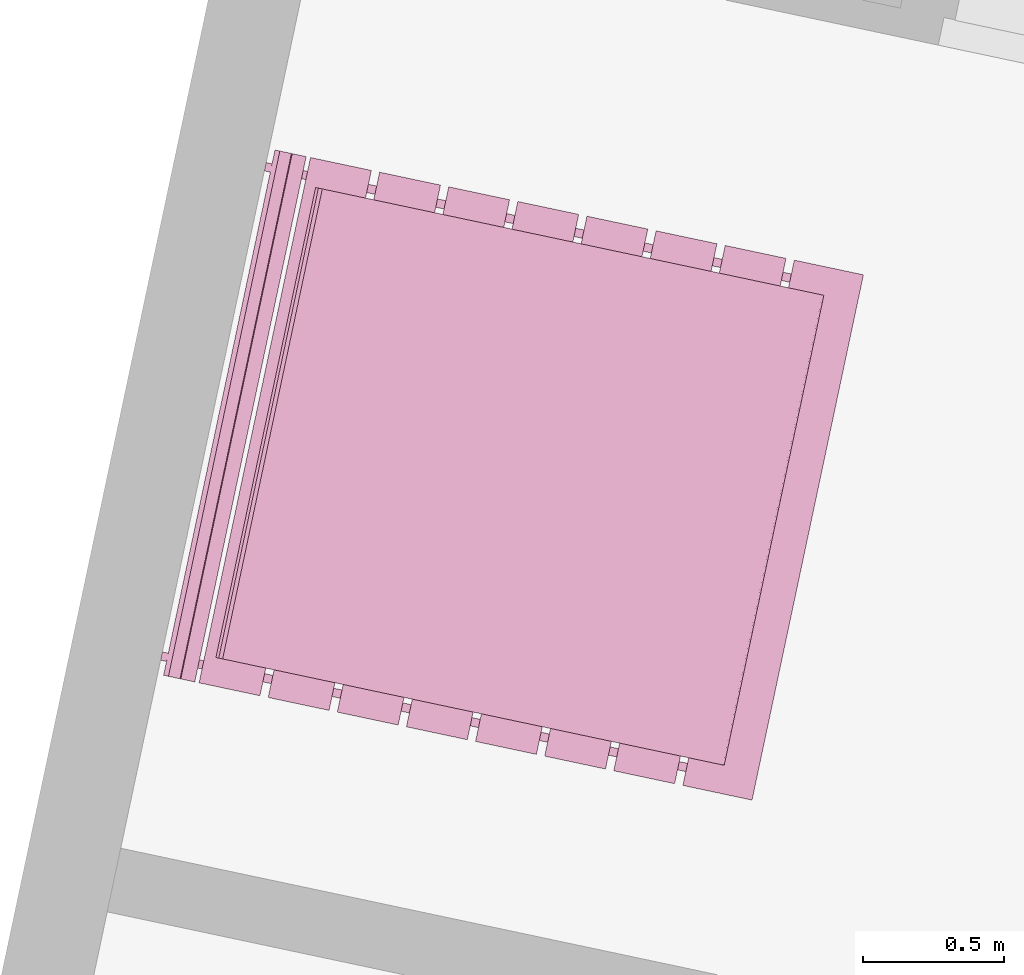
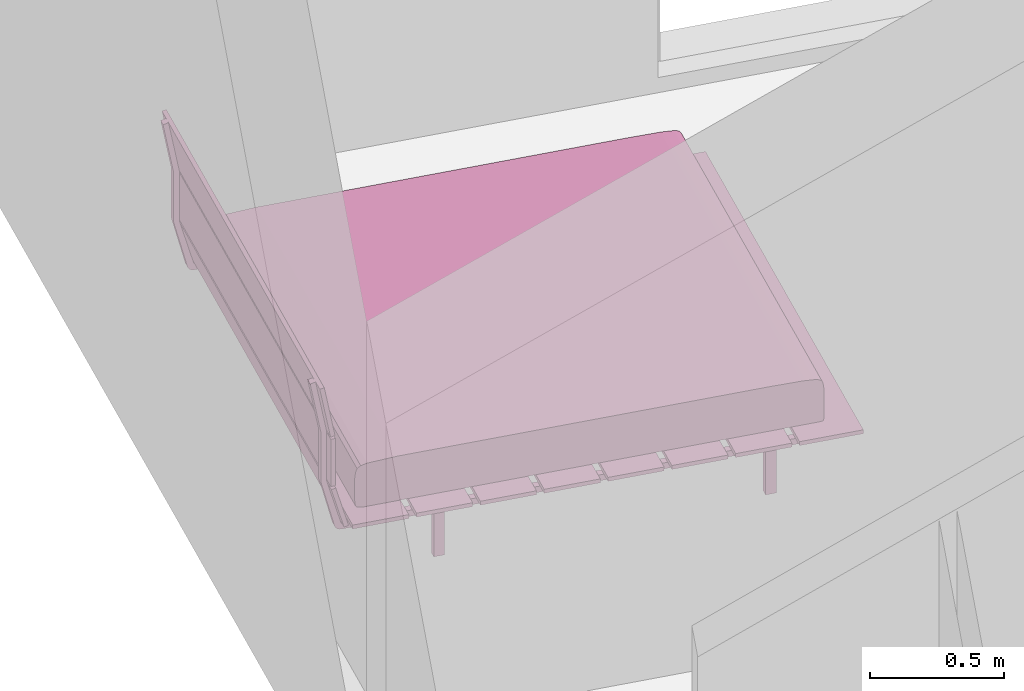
# One storey, part 19 of 20: 1 furnishing.
"""IFC2X3 building model written with IfcOpenShell, lengths in metres."""

from ifc_helpers import new_model, entity, si_unit, converted_unit, derived_unit, direction, frame, frame_2d, origin, origin_2d_with_axis, place, context, subcontext, project, spatial, polyline, circle_curve, parameter, trimmed, segment, composite_curve, rectangle, outline, extrude, source, transform, mapped, material, material_list, type_object, type_shapes, element, save


model = new_model("IFC2X3")

# Units and contexts
model_context = context("Model", 3, precision=1e-05, world=origin(), true_north=direction((6.12303176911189e-17, 1.0)))
body_context = subcontext(model_context, "Body", "Model", "MODEL_VIEW")
ifc_project = project(units=[si_unit("LENGTHUNIT", "METRE"), si_unit("AREAUNIT", "SQUARE_METRE"), si_unit("VOLUMEUNIT", "CUBIC_METRE"), converted_unit("PLANEANGLEUNIT", "DEGREE", entity("IfcRatioMeasure", 0.0174532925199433), si_unit("PLANEANGLEUNIT", "RADIAN"), dimensions=[0, 0, 0, 0, 0, 0, 0]), si_unit("MASSUNIT", "GRAM", prefix="KILO"), derived_unit("MASSDENSITYUNIT", [(si_unit("MASSUNIT", "GRAM", prefix="KILO"), 1), (si_unit("LENGTHUNIT", "METRE"), -3)]), si_unit("TIMEUNIT", "SECOND"), si_unit("FREQUENCYUNIT", "HERTZ"), si_unit("THERMODYNAMICTEMPERATUREUNIT", "DEGREE_CELSIUS"), derived_unit("THERMALTRANSMITTANCEUNIT", [(si_unit("MASSUNIT", "GRAM", prefix="KILO"), 1), (si_unit("THERMODYNAMICTEMPERATUREUNIT", "KELVIN"), -1), (si_unit("TIMEUNIT", "SECOND"), -3)]), derived_unit("VOLUMETRICFLOWRATEUNIT", [(si_unit("LENGTHUNIT", "METRE"), 3), (si_unit("TIMEUNIT", "SECOND"), -1)]), si_unit("ELECTRICCURRENTUNIT", "AMPERE"), si_unit("ELECTRICVOLTAGEUNIT", "VOLT"), si_unit("POWERUNIT", "WATT"), si_unit("FORCEUNIT", "NEWTON", prefix="KILO"), si_unit("ILLUMINANCEUNIT", "LUX"), si_unit("LUMINOUSFLUXUNIT", "LUMEN"), si_unit("LUMINOUSINTENSITYUNIT", "CANDELA"), derived_unit("USERDEFINED", [(si_unit("MASSUNIT", "GRAM", prefix="KILO"), -1), (si_unit("LENGTHUNIT", "METRE"), -2), (si_unit("TIMEUNIT", "SECOND"), 3), (si_unit("LUMINOUSFLUXUNIT", "LUMEN"), 1)]), derived_unit("LINEARVELOCITYUNIT", [(si_unit("LENGTHUNIT", "METRE"), 1), (si_unit("TIMEUNIT", "SECOND"), -1)]), si_unit("PRESSUREUNIT", "PASCAL"), derived_unit("USERDEFINED", [(si_unit("LENGTHUNIT", "METRE"), -2), (si_unit("MASSUNIT", "GRAM", prefix="KILO"), 1), (si_unit("TIMEUNIT", "SECOND"), -2)])], contexts=[model_context])

# Site, building, storey, space
site_placement = place(None, origin())
site = spatial("IfcSite", under=ifc_project, at=site_placement, Name="Default", CompositionType="ELEMENT")
building_placement = place(site_placement, origin())
building = spatial("IfcBuilding", under=site, at=building_placement, CompositionType="ELEMENT")
storey_placement = place(building_placement, frame((0.0, 0.0, -0.0686871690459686)))
storey = spatial("IfcBuildingStorey", under=building, at=storey_placement, Name="RDC", CompositionType="ELEMENT", Elevation=-0.0686871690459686)
space_placement = place(storey_placement, origin())
space = spatial("IfcSpace", under=storey, at=space_placement, Name="630", CompositionType="ELEMENT", InteriorOrExteriorSpace="INTERNAL")

# Furnishing
ifc_material_1 = material(Name="Textile - Bleu pâle")
ifc_material_2 = material(Name="Bois - Teck")
ifc_material_3 = material(Name="Plastique - Noir")
ifc_material_list_1 = material_list([ifc_material_1, ifc_material_2, ifc_material_3])
ifc_material_list_2 = material_list([ifc_material_1, ifc_material_2, ifc_material_3])
furniture_type = type_object("IfcFurnitureType", Name="1900 mm x 2000 mm", material=ifc_material_list_2)
shared_shape = source(origin(), body_context, "Body", "SweptSolid", [
    extrude(outline(composite_curve([segment(polyline([(-0.755361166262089, -0.0846796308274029), (0.695178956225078, -0.0846796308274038)]), True, "CONTINUOUS"), segment(polyline([(0.695178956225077, -0.0846796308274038), (0.816394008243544, -0.078623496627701)]), True, "CONTINUOUS"), segment(polyline([(0.816394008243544, -0.078623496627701), (0.842657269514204, -0.0725673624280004)]), True, "CONTINUOUS"), segment(polyline([(0.842657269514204, -0.0725673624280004), (0.856799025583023, -0.0624738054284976)]), True, "CONTINUOUS"), segment(polyline([(0.856799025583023, -0.0624738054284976), (0.862859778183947, -0.0443054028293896)]), True, "CONTINUOUS"), segment(polyline([(0.862859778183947, -0.0443054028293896), (0.866900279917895, -0.0120060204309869)]), True, "CONTINUOUS"), segment(polyline([(0.866900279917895, -0.0120060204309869), (0.866900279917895, 0.0747985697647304)]), True, "CONTINUOUS"), segment(polyline([(0.866900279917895, 0.0747985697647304), (0.862859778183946, 0.105079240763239)]), True, "CONTINUOUS"), segment(polyline([(0.862859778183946, 0.105079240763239), (0.856799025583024, 0.113154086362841)]), True, "CONTINUOUS"), segment(polyline([(0.856799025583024, 0.113154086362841), (0.836596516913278, 0.117191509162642)]), True, "CONTINUOUS"), segment(polyline([(0.836596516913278, 0.117191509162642), (-0.953345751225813, 0.117191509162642)]), True, "CONTINUOUS"), segment(polyline([(-0.953345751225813, 0.117191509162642), (-0.969507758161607, 0.115172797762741)]), True, "CONTINUOUS"), segment(polyline([(-0.969507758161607, 0.115172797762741), (-0.971528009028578, 0.103060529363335)]), True, "CONTINUOUS"), segment(polyline([(-0.971528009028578, 0.103060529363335), (-0.971528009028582, -0.0160434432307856)]), True, "CONTINUOUS"), segment(trimmed(circle_curve(frame_2d((-0.76779044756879, -0.0160434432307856), x_axis=(-1.0, 0.0)), 0.203737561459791), [parameter(360.0)], [parameter(11.4298384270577)], True, "PARAMETER"), True, "CONTINUOUS"), segment(trimmed(circle_curve(frame_2d((-0.944467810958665, -0.0517636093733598), x_axis=(-1.0, 0.0)), 0.0234854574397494), [parameter(11.4298384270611)], [parameter(62.3518913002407)], True, "PARAMETER"), True, "CONTINUOUS"), segment(trimmed(circle_curve(frame_2d((-0.929629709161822, -0.0234388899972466), x_axis=(-1.0, 0.0)), 0.0554613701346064), [parameter(62.35189130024)], [parameter(84.2736549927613)], True, "PARAMETER"), True, "CONTINUOUS"), segment(trimmed(circle_curve(frame_2d((-0.809859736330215, 1.1709442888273), x_axis=(-1.0, 0.0)), 1.25583465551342), [parameter(84.2736549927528)], [parameter(86.5854437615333)], True, "PARAMETER"), True, "CONTINUOUS"), segment(polyline([(-0.884657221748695, -0.0826609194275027), (-0.755361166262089, -0.0846796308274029)]), True, "CONTINUOUS")], self_intersect=False)), frame((-0.85, 1.05656455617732, 0.367191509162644), z_axis=(1.0, 0.0, 0.0), x_axis=(0.0, -1.0, 0.0)), (0.0, 0.0, 1.0), 1.7),
    extrude(rectangle(XDim=1.9, YDim=0.249999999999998, at=origin_2d_with_axis()), frame((0.0, 2.02499620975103, 0.232311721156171), z_axis=(0.0, 0.0, 1.0), x_axis=(-1.0, 0.0, 0.0)), (0.0, 0.0, 1.0), 0.0176882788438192),
    extrude(outline(polyline([(-0.114793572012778, -0.00886960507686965), (0.115119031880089, -0.00886960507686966), (0.115119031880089, 0.00896042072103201), (-0.115444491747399, 0.00877878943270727), (-0.114793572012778, -0.00886960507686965)])), frame((-0.95, 0.051324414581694, 0.783374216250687), z_axis=(1.0, 0.0, 0.0), x_axis=(0.0, -0.182165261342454, 0.983267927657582)), (0.0, 0.0, 1.0), 1.9),
    extrude(rectangle(XDim=1.9, YDim=0.219999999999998, at=frame_2d((0.0, 1.38777878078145e-16), x_axis=(1.0, 0.0))), frame((0.0, 1.75999620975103, 0.232311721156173), z_axis=(0.0, 0.0, 1.0), x_axis=(-1.0, 0.0, 0.0)), (0.0, 0.0, 1.0), 0.0176882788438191),
    extrude(rectangle(XDim=1.9, YDim=0.219999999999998, at=frame_2d((0.0, -1.31838984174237e-16), x_axis=(1.0, 0.0))), frame((0.0, 1.50999620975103, 0.232311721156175), z_axis=(0.0, 0.0, 1.0), x_axis=(-1.0, 0.0, 0.0)), (0.0, 0.0, 1.0), 0.017688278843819),
    extrude(rectangle(XDim=1.9, YDim=0.219999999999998, at=frame_2d((0.0, -1.38777878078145e-16), x_axis=(1.0, 0.0))), frame((0.0, 1.25999620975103, 0.232311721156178), z_axis=(0.0, 0.0, 1.0), x_axis=(-1.0, 0.0, 0.0)), (0.0, 0.0, 1.0), 0.0176882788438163),
    extrude(rectangle(XDim=1.9, YDim=0.219999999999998, at=frame_2d((0.0, 6.93889390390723e-17), x_axis=(1.0, 0.0))), frame((0.0, 1.00999620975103, 0.232311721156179), z_axis=(0.0, 0.0, 1.0), x_axis=(-1.0, 0.0, 0.0)), (0.0, 0.0, 1.0), 0.0176882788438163),
    extrude(rectangle(XDim=1.9, YDim=0.22, at=origin_2d_with_axis()), frame((0.0, 0.759996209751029, 0.232311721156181), z_axis=(0.0, 0.0, 1.0), x_axis=(-1.0, 0.0, 0.0)), (0.0, 0.0, 1.0), 0.0176882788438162),
    extrude(rectangle(XDim=1.9, YDim=0.22, at=origin_2d_with_axis()), frame((0.0, 0.509996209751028, 0.232311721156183), z_axis=(0.0, 0.0, 1.0), x_axis=(-1.0, 0.0, 0.0)), (0.0, 0.0, 1.0), 0.0176882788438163),
    extrude(rectangle(XDim=1.9, YDim=0.22, at=origin_2d_with_axis()), frame((0.0, 0.259996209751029, 0.232311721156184), z_axis=(0.0, 0.0, 1.0), x_axis=(-1.0, 0.0, 0.0)), (0.0, 0.0, 1.0), 0.0176882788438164),
    extrude(rectangle(XDim=1.9, YDim=0.0183684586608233, at=origin_2d_with_axis()), frame((0.0, 0.0735868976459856, 0.443802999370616), z_axis=(0.0, 0.0, 1.0), x_axis=(-1.0, 0.0, 0.0)), (0.0, 0.0, 1.0), 0.214481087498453),
    extrude(outline(polyline([(-0.0941857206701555, -0.00889996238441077), (0.0936128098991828, -0.00889996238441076), (0.0943260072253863, 0.00869876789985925), (-0.0937530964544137, 0.00910115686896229), (-0.0941857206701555, -0.00889996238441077)])), frame((-0.95, 0.100341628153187, 0.340588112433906), z_axis=(1.0, 0.0, 0.0), x_axis=(0.0, -0.268983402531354, 0.96314481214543)), (0.0, 0.0, 1.0), 1.9),
    extrude(rectangle(XDim=0.0299999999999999, YDim=0.0421792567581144, at=frame_2d((0.0, -2.70616862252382e-16), x_axis=(1.0, 0.0))), frame((-0.884999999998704, 1.80439834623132, 0.0)), (0.0, 0.0, 1.0), 0.204645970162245),
    extrude(rectangle(XDim=0.0299999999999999, YDim=0.0421792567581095, at=frame_2d((0.0, -3.29597460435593e-17), x_axis=(1.0, 0.0))), frame((-0.884999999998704, 0.505017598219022, 0.0)), (0.0, 0.0, 1.0), 0.204645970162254),
    extrude(rectangle(XDim=0.0299999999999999, YDim=0.0421792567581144, at=frame_2d((1.35308431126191e-16, 0.0), x_axis=(1.0, 0.0))), frame((0.885000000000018, 1.80439834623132, 0.0), z_axis=(0.0, 0.0, 1.0), x_axis=(-1.0, 0.0, 0.0)), (0.0, 0.0, 1.0), 0.204645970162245),
    extrude(rectangle(XDim=0.0299999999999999, YDim=0.0421792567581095, at=frame_2d((1.35308431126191e-16, -3.29597460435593e-17), x_axis=(1.0, 0.0))), frame((0.885000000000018, 0.505017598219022, 0.0), z_axis=(0.0, 0.0, 1.0), x_axis=(-1.0, 0.0, 0.0)), (0.0, 0.0, 1.0), 0.204645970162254),
    extrude(outline(composite_curve([segment(polyline([(-0.499010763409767, 0.346366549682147), (-0.499569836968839, 0.324560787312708)]), True, "CONTINUOUS"), segment(polyline([(-0.499569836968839, 0.324560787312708), (-0.2642053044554, 0.324063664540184)]), True, "CONTINUOUS"), segment(polyline([(-0.2642053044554, 0.324063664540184), (-0.0414406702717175, 0.365029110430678)]), True, "CONTINUOUS"), segment(polyline([(-0.0414406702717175, 0.365029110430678), (0.170125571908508, 0.346291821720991)]), True, "CONTINUOUS"), segment(polyline([(0.170125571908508, 0.346291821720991), (0.528537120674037, -1.59768807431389)]), True, "CONTINUOUS"), segment(polyline([(0.528537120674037, -1.59768807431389), (0.549932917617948, -1.56608457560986)]), True, "CONTINUOUS"), segment(polyline([(0.549932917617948, -1.56608457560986), (0.19740578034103, 0.350911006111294)]), True, "CONTINUOUS"), segment(trimmed(circle_curve(frame_2d((0.17103903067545, 0.346062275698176), x_axis=(0.180862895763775, -0.983508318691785)), 0.0268088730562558), [parameter(90.0)], [parameter(167.367566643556)], True, "PARAMETER"), True, "CONTINUOUS"), segment(polyline([(0.172073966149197, 0.372851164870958), (-0.0455420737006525, 0.387331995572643)]), True, "CONTINUOUS"), segment(polyline([(-0.0455420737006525, 0.387331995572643), (-0.268306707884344, 0.346366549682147)]), True, "CONTINUOUS"), segment(polyline([(-0.268306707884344, 0.346366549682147), (-0.499010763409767, 0.346366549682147)]), True, "CONTINUOUS")], self_intersect=False)), frame((-0.899999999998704, 0.430906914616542, 0.462262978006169), z_axis=(-1.0, 0.0, 0.0), x_axis=(0.0, 0.180862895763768, -0.983508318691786)), (0.0, 0.0, -1.0), 0.0299999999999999),
    extrude(outline(composite_curve([segment(polyline([(-0.499010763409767, 0.346366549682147), (-0.49956983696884, 0.324560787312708)]), True, "CONTINUOUS"), segment(polyline([(-0.49956983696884, 0.324560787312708), (-0.2642053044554, 0.324063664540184)]), True, "CONTINUOUS"), segment(polyline([(-0.2642053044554, 0.324063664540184), (-0.0414406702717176, 0.365029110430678)]), True, "CONTINUOUS"), segment(polyline([(-0.0414406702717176, 0.365029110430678), (0.170125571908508, 0.346291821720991)]), True, "CONTINUOUS"), segment(polyline([(0.170125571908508, 0.346291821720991), (0.528537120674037, -1.59768807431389)]), True, "CONTINUOUS"), segment(polyline([(0.528537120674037, -1.59768807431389), (0.549932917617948, -1.56608457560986)]), True, "CONTINUOUS"), segment(polyline([(0.549932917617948, -1.56608457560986), (0.19740578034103, 0.350911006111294)]), True, "CONTINUOUS"), segment(trimmed(circle_curve(frame_2d((0.17103903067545, 0.346062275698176), x_axis=(0.180862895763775, -0.983508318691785)), 0.0268088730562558), [parameter(90.0)], [parameter(167.367566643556)], True, "PARAMETER"), True, "CONTINUOUS"), segment(polyline([(0.172073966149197, 0.372851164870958), (-0.0455420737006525, 0.387331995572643)]), True, "CONTINUOUS"), segment(polyline([(-0.0455420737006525, 0.387331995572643), (-0.268306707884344, 0.346366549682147)]), True, "CONTINUOUS"), segment(polyline([(-0.268306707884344, 0.346366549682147), (-0.499010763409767, 0.346366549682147)]), True, "CONTINUOUS")], self_intersect=False)), frame((0.870000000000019, 0.430906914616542, 0.462262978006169), z_axis=(-1.0, 0.0, 0.0), x_axis=(0.0, 0.180862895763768, -0.983508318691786)), (0.0, 0.0, -1.0), 0.0299999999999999),
])
type_shapes(furniture_type, [shared_shape])
furnishing_placement = place(space_placement, frame((-19.9478186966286, 85.143638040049, 0.0686871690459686), z_axis=(0.0, 0.0, 1.0), x_axis=(-0.20748429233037, -0.978238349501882, 0.0)))
element("IfcFurnishingElement", 1, at=furnishing_placement, inside=space, type_object=furniture_type, material=ifc_material_list_1, Name="Lit à lattes:1900 mm x 2000 mm", ObjectType="Lit à lattes:1900 mm x 2000 mm", context=body_context, shape_type="MappedRepresentation", body=[
    mapped(shared_shape, transform((0.0, 0.0, 0.0), scale=1.0)),
])

save(model, "model.ifc")
